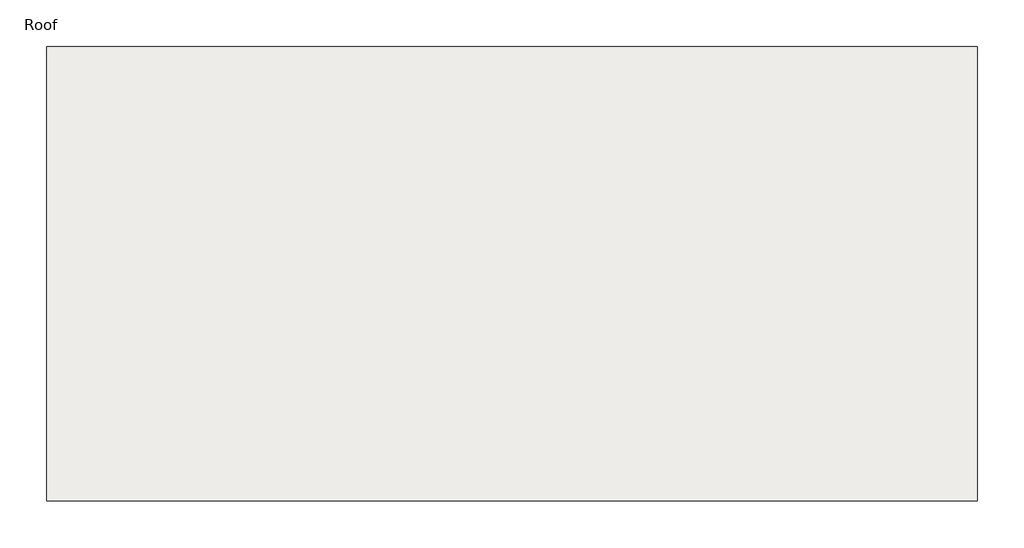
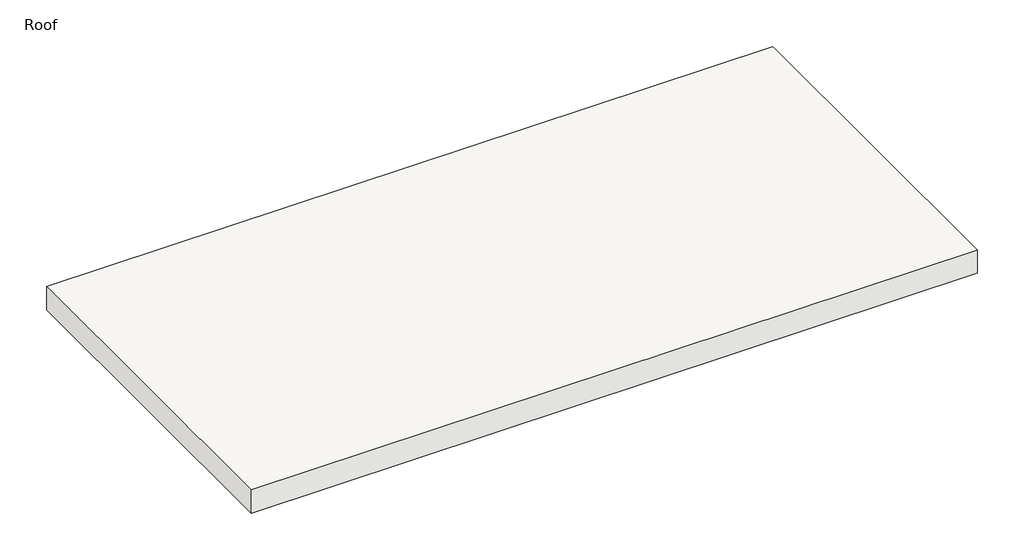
# One storey: 1 roof.
"""IFC4 building model written with IfcOpenShell, lengths in millimetres."""

import ifcopenshell
import ifcopenshell.guid

model = None  # the IFC model being written
_history = None  # IfcOwnerHistory: only IFC2X3 demands one
_inside = {}  # id of a spatial element -> (the spatial element, [elements in it])
_under = {}  # id of a project, library or spatial element -> (it, [spatial elements below it])
_declared = {}  # id of a project -> (the project, [libraries it declares])
_typed = {}  # id of a type object -> (the type object, [elements of that type])
_made_of = {}  # id of a material, layer set ... -> (it, [elements and type objects made of it])


def new_model(schema):
    """Start an empty IFC model of exactly this schema.

    Asked for "IFC4X3", IfcOpenShell would pick the latest addendum, in which some entities
    have other attributes; the version numbers below select the first issue.
    IFC2X3 requires an IfcOwnerHistory on every rooted entity: one is made here for all.
    """
    global model, _history
    if schema == "IFC4X3":
        model = ifcopenshell.file(schema_version=(4, 3, 0, 0))
    else:
        model = ifcopenshell.file(schema=schema)
    _inside.clear()
    _under.clear()
    _declared.clear()
    _typed.clear()
    _made_of.clear()
    _history = None
    if model.schema == "IFC2X3":
        org = make("IfcOrganization", Name="unknown")
        user = make(
            "IfcPersonAndOrganization",
            ThePerson=make("IfcPerson", FamilyName="unknown"),
            TheOrganization=org,
        )
        app = make(
            "IfcApplication",
            ApplicationDeveloper=org,
            Version="unknown",
            ApplicationFullName="unknown",
            ApplicationIdentifier="unknown",
        )
        _history = make(
            "IfcOwnerHistory",
            OwningUser=user,
            OwningApplication=app,
            ChangeAction="ADDED",
            CreationDate=0,
        )
    return model


def make(cls, **values):
    """One entity of the class cls with the attributes given. An attribute that is None is left unset."""
    return model.create_entity(
        cls, **{name: value for name, value in values.items() if value is not None}
    )


def rooted(cls, **values):
    """An entity with a GlobalId (a new one), such as an element, a storey or a relation."""
    return make(cls, GlobalId=ifcopenshell.guid.new(), OwnerHistory=_history, **values)


def si_unit(unit_type, name, prefix=None):
    """IfcSIUnit, for example si_unit("LENGTHUNIT", "METRE", prefix="MILLI")."""
    return make("IfcSIUnit", UnitType=unit_type, Prefix=prefix, Name=name)


def assignment(units):
    """IfcUnitAssignment: the units of a project."""
    return None if units is None else make("IfcUnitAssignment", Units=units)


def point(xyz):
    """IfcCartesianPoint."""
    return None if xyz is None else make("IfcCartesianPoint", Coordinates=xyz)


def direction(xyz):
    """IfcDirection."""
    return None if xyz is None else make("IfcDirection", DirectionRatios=xyz)


def frame(location, z_axis=None, x_axis=None):
    """IfcAxis2Placement3D, a coordinate frame: its origin and axes. An axis left out is left unset."""
    return make(
        "IfcAxis2Placement3D",
        Location=point(location),
        Axis=direction(z_axis),
        RefDirection=direction(x_axis),
    )


def origin():
    """The frame at (0, 0, 0) with its axes left unset."""
    return frame((0.0, 0.0, 0.0))


def place(relative_to, where):
    """IfcLocalPlacement: puts the frame where relative to a parent placement (None: the world)."""
    return make(
        "IfcLocalPlacement", PlacementRelTo=relative_to, RelativePlacement=where
    )


def context(
    kind, dimensions, precision=None, world=None, true_north=None, identifier=None
):
    """IfcGeometricRepresentationContext, for example the 3D "Model" context."""
    return make(
        "IfcGeometricRepresentationContext",
        ContextIdentifier=identifier,
        ContextType=kind,
        CoordinateSpaceDimension=dimensions,
        Precision=precision,
        WorldCoordinateSystem=world,
        TrueNorth=true_north,
    )


def project(units=None, contexts=None):
    """IfcProject with its units and contexts."""
    return rooted(
        "IfcProject",
        Name="project",
        RepresentationContexts=contexts,
        UnitsInContext=assignment(units),
    )


def spatial(cls, under=None, at=None, **own):
    """A site, building, storey or space (cls), placed at a placement, below another one or the project."""
    s = rooted(cls, ObjectPlacement=at, **own)
    if under is not None:
        _under.setdefault(under.id(), (under, []))[1].append(s)
    return s


def polyline(points):
    """IfcPolyline through the points."""
    return make("IfcPolyline", Points=[point(p) for p in points])


def outline(outer, holes=None, kind="AREA"):
    """IfcArbitraryClosedProfileDef: a profile drawn as a closed curve; with holes, ...WithVoids."""
    if holes is None:
        return make("IfcArbitraryClosedProfileDef", ProfileType=kind, OuterCurve=outer)
    return make(
        "IfcArbitraryProfileDefWithVoids",
        ProfileType=kind,
        OuterCurve=outer,
        InnerCurves=holes,
    )


def extrude(swept, where, along, depth):
    """IfcExtrudedAreaSolid: the profile swept, set in the frame where, extruded along a direction by depth."""
    return make(
        "IfcExtrudedAreaSolid",
        SweptArea=swept,
        Position=where,
        ExtrudedDirection=direction(along),
        Depth=depth,
    )


def shape(context_of_items, identifier, shape_type, items):
    """IfcShapeRepresentation: the items that make up one representation, for example the "Body"."""
    return make(
        "IfcShapeRepresentation",
        ContextOfItems=context_of_items,
        RepresentationIdentifier=identifier,
        RepresentationType=shape_type,
        Items=items,
    )


def made_of(thing, what):
    """Note that an element or type object is made of a material, layer set ...; save() writes the relation."""
    if what is not None:
        _made_of.setdefault(what.id(), (what, []))[1].append(thing)
    return thing


def element(
    cls,
    number,
    at=None,
    inside=None,
    cuts=None,
    type_object=None,
    material=None,
    context=None,
    identifier="Body",
    shape_type=None,
    held_by="IfcProductDefinitionShape",
    body=None,
    shapes=None,
    **own,
):
    """One element of the class cls, such as IfcWall. Its Tag is "e" and its number.

    at: its placement. inside: the storey or other place that contains it. cuts: it is an
    opening in that element (IfcRelVoidsElement). A single representation is given by context,
    identifier, shape_type and body (its items); several are given by shapes. held_by: the class
    of the entity that holds the representations. save() writes the other relations.
    """
    e = rooted(cls, Tag="e%d" % number, ObjectPlacement=at, **own)
    if body is not None:
        shapes = [shape(context, identifier, shape_type, body)]
    if shapes is not None:
        e.Representation = make(held_by, Representations=shapes)
    if inside is not None:
        _inside.setdefault(inside.id(), (inside, []))[1].append(e)
    if cuts is not None:
        rooted(
            "IfcRelVoidsElement", RelatingBuildingElement=cuts, RelatedOpeningElement=e
        )
    if type_object is not None:
        _typed.setdefault(type_object.id(), (type_object, []))[1].append(e)
    return made_of(e, material)


def aggregate(whole, parts):
    """IfcRelAggregates: a whole, such as a stair, and the parts it consists of."""
    return rooted("IfcRelAggregates", RelatingObject=whole, RelatedObjects=parts)


def save(model, path):
    """Write the relations noted so far, then the file.

    IfcRelAggregates (storeys below a building ...), IfcRelContainedInSpatialStructure (elements
    in a storey), IfcRelDefinesByType, IfcRelAssociatesMaterial and IfcRelDeclares: one each for
    every whole, place, type object, material and project.
    """
    for whole, parts in _under.values():
        aggregate(whole, parts)
    for where, things in _inside.values():
        rooted(
            "IfcRelContainedInSpatialStructure",
            RelatedElements=things,
            RelatingStructure=where,
        )
    for kind, things in _typed.values():
        rooted("IfcRelDefinesByType", RelatedObjects=things, RelatingType=kind)
    for what, things in _made_of.values():
        rooted("IfcRelAssociatesMaterial", RelatedObjects=things, RelatingMaterial=what)
    for by, libraries in _declared.values():
        rooted("IfcRelDeclares", RelatingContext=by, RelatedDefinitions=libraries)
    model.write(path)


model = new_model("IFC4")

# Units and contexts
model_context = context("Model", 3, world=origin())
ifc_project = project(units=[si_unit("LENGTHUNIT", "METRE", prefix="MILLI")], contexts=[model_context])

# Site, building, storey
site = spatial("IfcSite", under=ifc_project)
building = spatial("IfcBuilding", under=site)
storey = spatial("IfcBuildingStorey", under=building, Name="Roof", Elevation=12000.0)

# Roof
placement = place(None, origin())
element("IfcRoof", 1, ObjectType="Generic - 400mm", at=placement, inside=storey, context=model_context, shape_type="SweptSolid", body=[
    extrude(outline(polyline([(-6444.0930086, 8105.0670483), (-18201.8430086, 8105.0670483), (-18201.8430086, 13851.0670483), (-6444.0930086, 13851.0670483), (-6444.0930086, 8105.0670483)])), frame((0.0, 0.0, 12000.0), z_axis=(0.0, 0.0, 1.0), x_axis=(1.0, 0.0, 0.0)), (0.0, 0.0, 1.0), 400.0),
])

save(model, "model.ifc")
